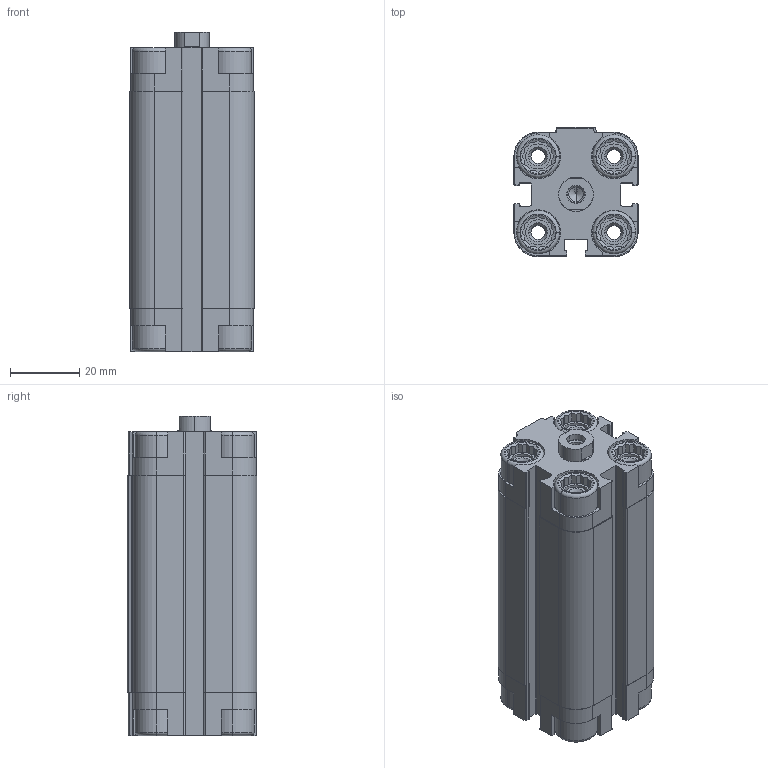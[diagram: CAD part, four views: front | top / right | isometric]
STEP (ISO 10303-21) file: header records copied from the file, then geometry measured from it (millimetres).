
FILE_DESCRIPTION (( 'STEP AP203' ), '1' );
FILE_NAME ('CDVU20-50F.STEP', '2020-03-30T14:55:26', ( '' ), ( '' ), 'SwSTEP 2.0', 'SolidWorks 2019', '' );
FILE_SCHEMA (( 'CONFIG_CONTROL_DESIGN' ));
Length unit declared in the file: millimetre
Products named in the file (1): CDVU20-50F
Bounding box: 36 x 37.5 x 92.5 mm (x, y, z)
Volume: 75822.2 mm3; surface area: 36097.7 mm2
Topology: 2 solids, 2 shells, 593 faces, 1564 edges, 1011 vertices
Faces by surface type: plane 353, cylinder 178, cone 46, torus 16
Entity records: 18483 total; most frequent: CARTESIAN_POINT 3739, ORIENTED_EDGE 3116, DIRECTION 2986, EDGE_CURVE 1558, AXIS2_PLACEMENT_3D 1026, VERTEX_POINT 1011, LINE 934, VECTOR 934
